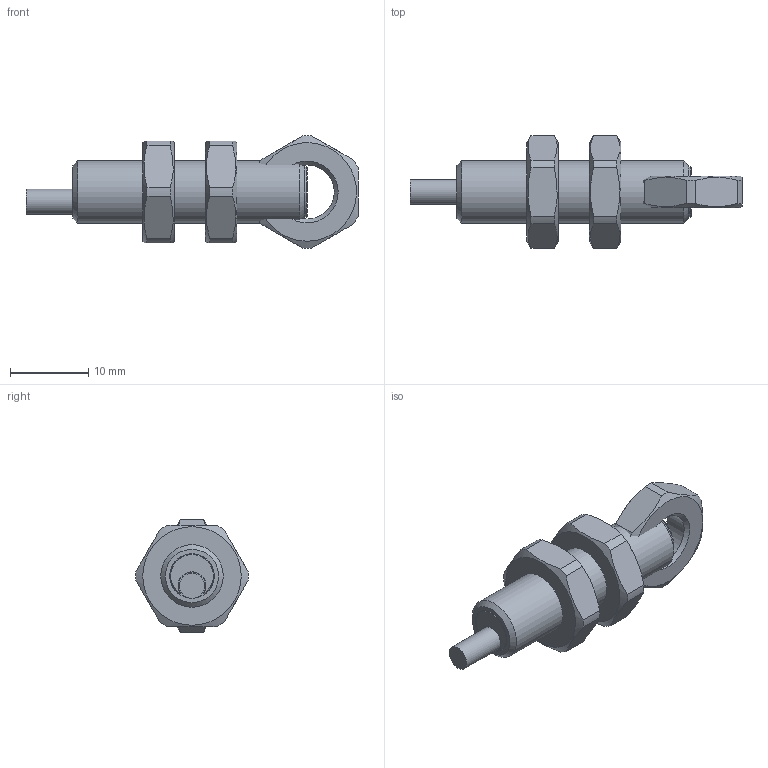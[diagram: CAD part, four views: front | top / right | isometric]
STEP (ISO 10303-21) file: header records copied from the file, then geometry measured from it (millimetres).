
FILE_DESCRIPTION( ( 'Unknown' ), '1' );
FILE_NAME( '//server-file-1/e_me/Solid Edge/Models/Dokumentationen/Induktiv/IxRx 08/Vereinfachte Modelle/Neutralformate/IFRM 08xxx01_L.stp', 'Unknown', ( 'Unknown' ), ( 'Unknown' ), 'XStep 1.0', 'Unknown', ' ' );
FILE_SCHEMA( ( 'CONFIG_CONTROL_DESIGN' ) );
Length unit declared in the file: millimetre
Products named in the file (3): Assem1; IFRM 08xxx01_L_oA; 101469
Bounding box: 42.45 x 14.39 x 14.4 mm (x, y, z)
Volume: 4329.8 mm3; surface area: 3132.3 mm2
Topology: 5 solids, 5 shells, 95 faces, 227 edges, 150 vertices
Faces by surface type: plane 44, cylinder 29, cone 22
Full cylindrical faces by diameter (mm): 3.2 x2, 5.7 x2, 6.4 x2, 6.917 x3, 8 x2
Entity records: 1207 total; most frequent: CARTESIAN_POINT 276, DIRECTION 170, ORIENTED_EDGE 142, AXIS2_PLACEMENT_3D 75, EDGE_CURVE 71, EDGE_LOOP 56, VERTEX_POINT 53, FACE_OUTER_BOUND 43
